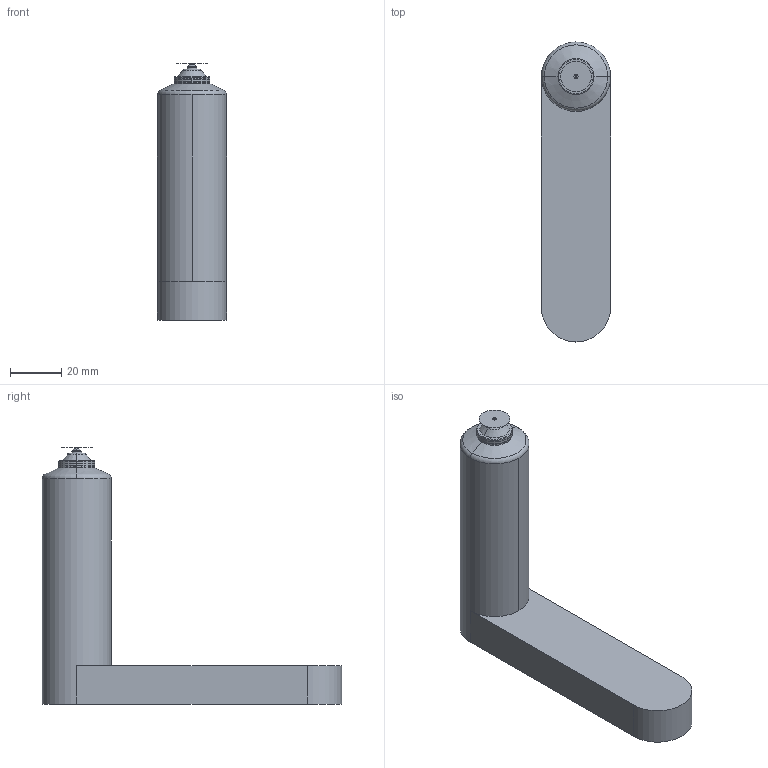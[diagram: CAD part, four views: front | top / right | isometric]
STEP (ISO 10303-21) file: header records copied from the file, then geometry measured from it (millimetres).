
FILE_DESCRIPTION (( 'STEP AP214' ), '1' );
FILE_NAME ('09E-03-100-TTW.STEP', '2023-04-19T12:42:22', ( '' ), ( '' ), 'SwSTEP 2.0', 'SolidWorks 2018', '' );
FILE_SCHEMA (( 'AUTOMOTIVE_DESIGN' ));
Length unit declared in the file: millimetre
Products named in the file (3): 09E-03-100-TTW; cutout_09E-03-100-TTW; nozzle_09E-03-100-TTW
Assembly tree (2 placements, depth 2):
  09E-03-100-TTW
    nozzle_09E-03-100-TTW
    cutout_09E-03-100-TTW
Bounding box: 27 x 117 x 100 mm (x, y, z)
Volume: 89194 mm3; surface area: 41848.5 mm2
Topology: 1 solids, 4 shells, 269 faces, 697 edges, 438 vertices
Faces by surface type: cylinder 118, plane 74, cone 49, torus 24, bspline 4
Entity records: 12265 total; most frequent: CARTESIAN_POINT 5439, DIRECTION 1464, ORIENTED_EDGE 1392, EDGE_CURVE 697, AXIS2_PLACEMENT_3D 584, VERTEX_POINT 438, CIRCLE 313, VECTOR 296
